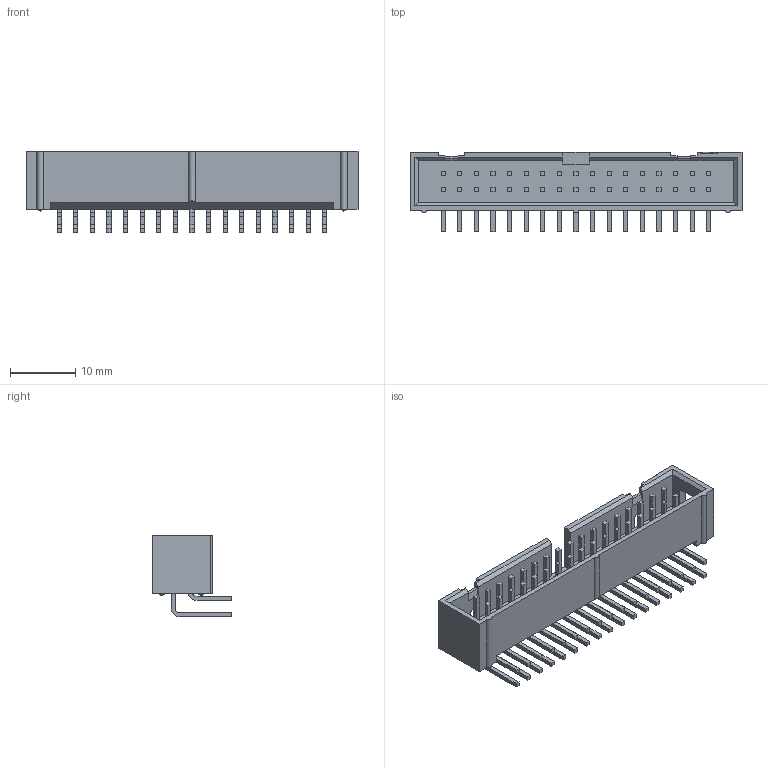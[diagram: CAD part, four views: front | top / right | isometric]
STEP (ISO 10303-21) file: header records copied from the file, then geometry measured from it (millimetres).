
FILE_DESCRIPTION(('STEP AP242'),'1');
FILE_NAME('1-1761682-1.stp','2022-04-11T09:31:03',('TraceParts'),('TraceParts S.A.'),'Spatial InterOp 3D',' ',' ');
FILE_SCHEMA(('AP242_MANAGED_MODEL_BASED_3D_ENGINEERING_MIM_LF {1 0 10303 442 1 1 4}'));
Length unit declared in the file: millimetre
Products named in the file (1): 1-1761682-1
Bounding box: 50.8 x 12.12 x 12.51 mm (x, y, z)
Volume: 2088.6 mm3; surface area: 3901.2 mm2
Topology: 1 solids, 1 shells, 521 faces, 1361 edges, 899 vertices
Faces by surface type: plane 438, cylinder 73, sphere 10
Entity records: 15771 total; most frequent: CARTESIAN_POINT 2788, ORIENTED_EDGE 2702, DIRECTION 2559, EDGE_CURVE 1351, LINE 1185, VECTOR 1185, VERTEX_POINT 899, AXIS2_PLACEMENT_3D 687
